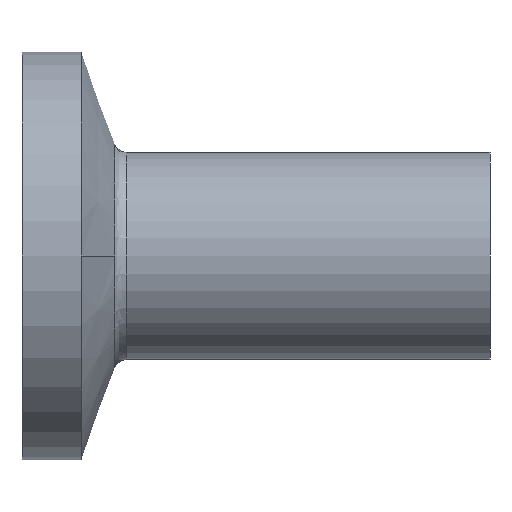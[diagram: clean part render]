
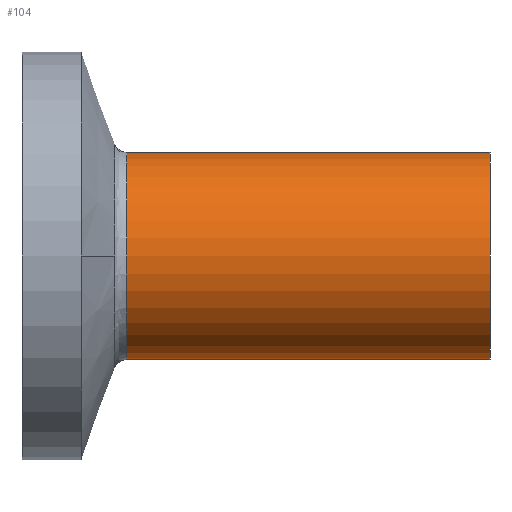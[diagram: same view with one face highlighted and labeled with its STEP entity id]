
A CAD part, front view. The second image highlights one B-rep face of the part: STEP entity #104.
In plain terms, the highlighted cylindrical face has radius 6.35 mm (diameter 12.7 mm), a partial arc.
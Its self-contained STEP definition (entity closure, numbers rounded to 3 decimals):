
#3 = CARTESIAN_POINT ( 'NONE',  ( -9.765, 0., 0. ) ) ;
#11 = CYLINDRICAL_SURFACE ( 'NONE', #29, 6.35 ) ;
#19 = VECTOR ( 'NONE', #101, 1000. ) ;
#29 = AXIS2_PLACEMENT_3D ( 'NONE', #3, #180, #71 ) ;
#30 = CARTESIAN_POINT ( 'NONE',  ( 28.7, 0., 0. ) ) ;
#42 = CARTESIAN_POINT ( 'NONE',  ( -9.765, 0., -6.35 ) ) ;
#46 = FACE_OUTER_BOUND ( 'NONE', #313, .T. ) ;
#68 = CARTESIAN_POINT ( 'NONE',  ( 6.421, 0., -6.35 ) ) ;
#71 = DIRECTION ( 'NONE',  ( 0., 0., 1. ) ) ;
#87 = CARTESIAN_POINT ( 'NONE',  ( 28.7, 0., 6.35 ) ) ;
#89 = DIRECTION ( 'NONE',  ( 0., 0., 1. ) ) ;
#101 = DIRECTION ( 'NONE',  ( -1., 0., 0. ) ) ;
#104 = ADVANCED_FACE ( 'NONE', ( #46 ), #11, .T. ) ;
#148 = CIRCLE ( 'NONE', #211, 6.35 ) ;
#160 = LINE ( 'NONE', #42, #19 ) ;
#180 = DIRECTION ( 'NONE',  ( -1., 0., 0. ) ) ;
#183 = EDGE_CURVE ( 'NONE', #404, #781, #629, .T. ) ;
#188 = VERTEX_POINT ( 'NONE', #68 ) ;
#211 = AXIS2_PLACEMENT_3D ( 'NONE', #30, #463, #89 ) ;
#226 = CIRCLE ( 'NONE', #374, 6.35 ) ;
#227 = ORIENTED_EDGE ( 'NONE', *, *, #681, .T. ) ;
#247 = DIRECTION ( 'NONE',  ( -1., 0., 0. ) ) ;
#255 = CARTESIAN_POINT ( 'NONE',  ( 6.421, 0., 0. ) ) ;
#313 = EDGE_LOOP ( 'NONE', ( #417, #227, #749, #471 ) ) ;
#323 = DIRECTION ( 'NONE',  ( 0., 0., 1. ) ) ;
#365 = VECTOR ( 'NONE', #247, 1000. ) ;
#374 = AXIS2_PLACEMENT_3D ( 'NONE', #255, #696, #323 ) ;
#392 = CARTESIAN_POINT ( 'NONE',  ( 28.7, 0., -6.35 ) ) ;
#404 = VERTEX_POINT ( 'NONE', #87 ) ;
#417 = ORIENTED_EDGE ( 'NONE', *, *, #734, .F. ) ;
#424 = VERTEX_POINT ( 'NONE', #392 ) ;
#455 = CARTESIAN_POINT ( 'NONE',  ( -9.765, 0., 6.35 ) ) ;
#463 = DIRECTION ( 'NONE',  ( -1., 0., 0. ) ) ;
#471 = ORIENTED_EDGE ( 'NONE', *, *, #645, .T. ) ;
#629 = LINE ( 'NONE', #455, #365 ) ;
#645 = EDGE_CURVE ( 'NONE', #781, #188, #226, .T. ) ;
#664 = CARTESIAN_POINT ( 'NONE',  ( 6.421, 0., 6.35 ) ) ;
#681 = EDGE_CURVE ( 'NONE', #424, #404, #148, .T. ) ;
#696 = DIRECTION ( 'NONE',  ( 1., 0., 0. ) ) ;
#734 = EDGE_CURVE ( 'NONE', #424, #188, #160, .T. ) ;
#749 = ORIENTED_EDGE ( 'NONE', *, *, #183, .T. ) ;
#781 = VERTEX_POINT ( 'NONE', #664 ) ;
